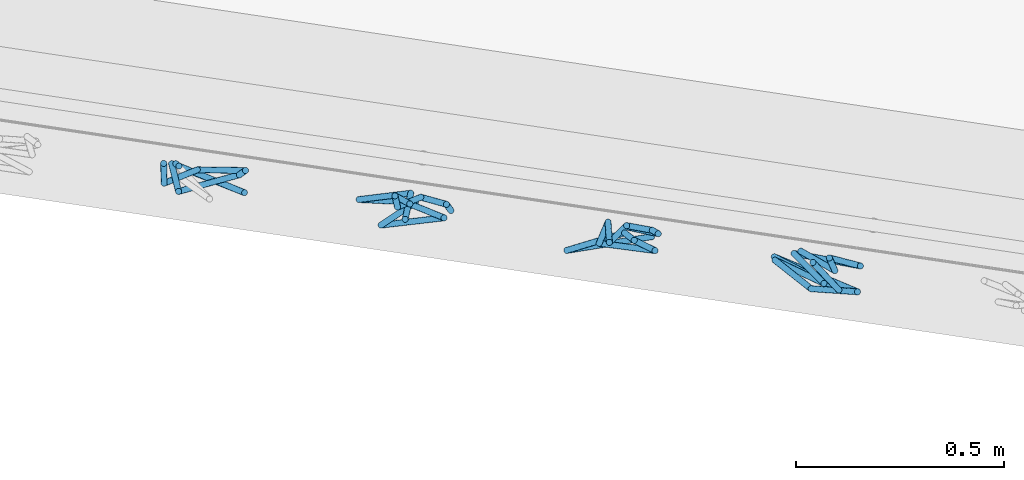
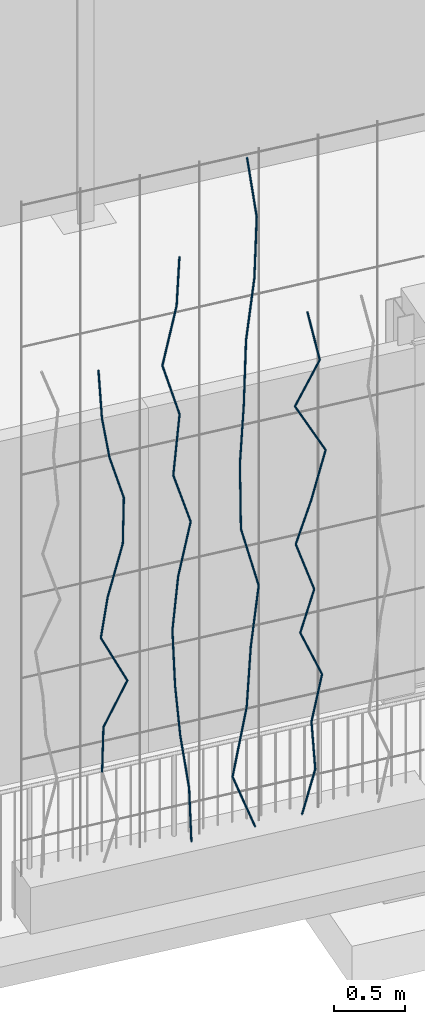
# One storey, part 110 of 142: 42 members, 1 element without a shape of its own.
"""IFC4 building model written with IfcOpenShell, lengths in metres."""

from ifc_helpers import new_model, si_unit, direction, frame, origin_with_axes, place, context, subcontext, project, spatial, circle, extrude, material, material_profile, profile_set, profile_usage, type_object, element, aggregate, save


model = new_model("IFC4")

# Units and contexts
model_context = context("Model", 3, precision=1e-05, world=origin_with_axes(), true_north=direction((0.0, 1.0)))
body_context = subcontext(model_context, "Body", "Model", "MODEL_VIEW")
ifc_project = project(units=[si_unit("AREAUNIT", "SQUARE_METRE"), si_unit("VOLUMEUNIT", "CUBIC_METRE"), si_unit("LENGTHUNIT", "METRE")], contexts=[model_context])

# Site, building, storey
site_placement = place(None, origin_with_axes())
site = spatial("IfcSite", under=ifc_project, at=site_placement, Name="Lares · Rua das Mercês · artigo 4771")
building_placement = place(site_placement, frame((15.0, 9.7, 14.65), z_axis=(0.0, 0.0, 1.0), x_axis=(0.989015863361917, -0.147809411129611, 0.0)))
building = spatial("IfcBuilding", under=site, at=building_placement, Name="Casa Sobreposta")
storey_placement = place(building_placement, origin_with_axes())
storey = spatial("IfcBuildingStorey", under=building, at=storey_placement, Name="00 · Habitação e estacionamento", Elevation=14.65)

# Assembly, members
assembly_placement = place(storey_placement, origin_with_axes())
assembly = element("IfcElementAssembly", 1, at=assembly_placement, inside=storey, Name="Fachada sul e pátio · estrutura e trepadeiras", ObjectType="LIVING_SHADE_TRELLIS", PredefinedType="USERDEFINED")
ifc_material = material(Name="Ramos de trepadeiras", Category="wood")
ifc_material_profile = material_profile(ifc_material, circle(Radius=0.0075))
ifc_profile_set = profile_set([ifc_material_profile], Name="D0.015")
ifc_profile_usage_1 = profile_usage(ifc_profile_set)
member_type = type_object("IfcMemberType", Name="D0.015 / vine_wood", PredefinedType="NOTDEFINED", material=ifc_profile_set)
member_1_placement = place(assembly_placement, frame((1.04551786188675, -1.65180114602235, 1.12023987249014), z_axis=(0.0216441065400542, -0.0116928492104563, 0.999697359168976), x_axis=(0.999765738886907, 0.000253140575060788, -0.0216426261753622)))
member_1 = element("IfcMember", 2, at=member_1_placement, type_object=member_type, material=ifc_profile_usage_1, Name="Trepadeiras · ramo", context=body_context, shape_type="SweptSolid", body=[
    extrude(circle(Radius=0.0075), origin_with_axes(), (0.0, 0.0, 1.0), 0.385236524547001),
])
ifc_profile_usage_2 = profile_usage(ifc_profile_set)
member_2_placement = place(assembly_placement, frame((1.05385596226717, -1.65630565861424, 1.50535980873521), z_axis=(0.393275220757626, -0.0947020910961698, 0.914530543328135), x_axis=(-0.234111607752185, -0.972209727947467, 0.0)))
member_2 = element("IfcMember", 3, at=member_2_placement, type_object=member_type, material=ifc_profile_usage_2, Name="Trepadeiras · ramo", context=body_context, shape_type="SweptSolid", body=[
    extrude(circle(Radius=0.0075), origin_with_axes(), (0.0, 0.0, 1.0), 0.421112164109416),
])
ifc_profile_usage_3 = profile_usage(ifc_profile_set)
member_3_placement = place(assembly_placement, frame((1.21946894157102, -1.69618586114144, 1.89047974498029), z_axis=(-0.42862490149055, 0.100433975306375, 0.89788290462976), x_axis=(0.228137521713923, 0.973628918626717, 0.0)))
member_3 = element("IfcMember", 4, at=member_3_placement, type_object=member_type, material=ifc_profile_usage_3, Name="Trepadeiras · ramo", context=body_context, shape_type="SweptSolid", body=[
    extrude(circle(Radius=0.0075), origin_with_axes(), (0.0, 0.0, 1.0), 0.428920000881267),
])
ifc_profile_usage_4 = profile_usage(ifc_profile_set)
member_4_placement = place(assembly_placement, frame((1.03562314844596, -1.65310772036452, 2.27559968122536), z_axis=(0.0671815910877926, -0.16244307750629, 0.984428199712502), x_axis=(-0.924089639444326, -0.382175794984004, 0.0)))
member_4 = element("IfcMember", 5, at=member_4_placement, type_object=member_type, material=ifc_profile_usage_4, Name="Trepadeiras · ramo", context=body_context, shape_type="SweptSolid", body=[
    extrude(circle(Radius=0.0075), origin_with_axes(), (0.0, 0.0, 1.0), 0.391211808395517),
])
ifc_profile_usage_5 = profile_usage(ifc_profile_set)
member_5_placement = place(assembly_placement, frame((1.0619053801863, -1.71665737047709, 2.66071961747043), z_axis=(0.335740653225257, 0.148049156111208, 0.930247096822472), x_axis=(0.403476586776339, -0.914989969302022, 0.0)))
member_5 = element("IfcMember", 6, at=member_5_placement, type_object=member_type, material=ifc_profile_usage_5, Name="Trepadeiras · ramo", context=body_context, shape_type="SweptSolid", body=[
    extrude(circle(Radius=0.0075), origin_with_axes(), (0.0, 0.0, 1.0), 0.413997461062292),
])
ifc_profile_usage_6 = profile_usage(ifc_profile_set)
member_6_placement = place(assembly_placement, frame((1.20090115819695, -1.65536539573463, 3.0458395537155), z_axis=(0.0333928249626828, 0.0321702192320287, 0.998924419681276), x_axis=(0.693800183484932, -0.720167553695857, 0.0)))
member_6 = element("IfcMember", 7, at=member_6_placement, type_object=member_type, material=ifc_profile_usage_6, Name="Trepadeiras · ramo", context=body_context, shape_type="SweptSolid", body=[
    extrude(circle(Radius=0.0075), origin_with_axes(), (0.0, 0.0, 1.0), 0.385534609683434),
])
ifc_profile_usage_7 = profile_usage(ifc_profile_set)
member_7_placement = place(assembly_placement, frame((1.21377524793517, -1.64296266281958, 3.43095948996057), z_axis=(-0.285637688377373, -0.0387161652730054, 0.957555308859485), x_axis=(-0.134314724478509, 0.990938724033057, 0.0)))
member_7 = element("IfcMember", 8, at=member_7_placement, type_object=member_type, material=ifc_profile_usage_7, Name="Trepadeiras · ramo", context=body_context, shape_type="SweptSolid", body=[
    extrude(circle(Radius=0.0075), origin_with_axes(), (0.0, 0.0, 1.0), 0.402190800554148),
])
ifc_profile_usage_8 = profile_usage(ifc_profile_set)
member_8_placement = place(assembly_placement, frame((1.09889439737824, -1.65853394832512, 3.81607942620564), z_axis=(-0.188349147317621, -0.110786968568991, 0.975833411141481), x_axis=(-0.506997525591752, 0.861947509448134, 0.0)))
member_8 = element("IfcMember", 9, at=member_8_placement, type_object=member_type, material=ifc_profile_usage_8, Name="Trepadeiras · ramo", context=body_context, shape_type="SweptSolid", body=[
    extrude(circle(Radius=0.0075), origin_with_axes(), (0.0, 0.0, 1.0), 0.394657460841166),
])
ifc_profile_usage_9 = profile_usage(ifc_profile_set)
member_9_placement = place(assembly_placement, frame((1.02456100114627, -1.70225685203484, 4.20119936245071), z_axis=(-0.020767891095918, 0.121017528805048, 0.992433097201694), x_axis=(0.985592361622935, 0.169138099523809, 0.0)))
member_9 = element("IfcMember", 10, at=member_9_placement, type_object=member_type, material=ifc_profile_usage_9, Name="Trepadeiras · ramo", context=body_context, shape_type="SweptSolid", body=[
    extrude(circle(Radius=0.0075), origin_with_axes(), (0.0, 0.0, 1.0), 0.388056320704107),
])
ifc_profile_usage_10 = profile_usage(ifc_profile_set)
member_10_placement = place(assembly_placement, frame((1.71733061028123, -1.66508877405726, 0.35), z_axis=(-0.0274245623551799, 0.0282673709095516, 0.999224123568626), x_axis=(0.999623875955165, 0.000775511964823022, 0.0274135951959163)))
member_10 = element("IfcMember", 11, at=member_10_placement, type_object=member_type, material=ifc_profile_usage_10, Name="Trepadeiras · ramo", context=body_context, shape_type="SweptSolid", body=[
    extrude(circle(Radius=0.0075), origin_with_axes(), (0.0, 0.0, 1.0), 0.463061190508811),
])
ifc_profile_usage_11 = profile_usage(ifc_profile_set)
member_11_placement = place(assembly_placement, frame((1.70463135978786, -1.65199925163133, 0.812701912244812), z_axis=(-0.136638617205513, 0.0166942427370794, 0.99048028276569), x_axis=(0.121276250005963, 0.992618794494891, 0.0)))
member_11 = element("IfcMember", 12, at=member_11_placement, type_object=member_type, material=ifc_profile_usage_11, Name="Trepadeiras · ramo", context=body_context, shape_type="SweptSolid", body=[
    extrude(circle(Radius=0.0075), origin_with_axes(), (0.0, 0.0, 1.0), 0.467149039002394),
])
ifc_profile_usage_12 = profile_usage(ifc_profile_set)
member_12_placement = place(assembly_placement, frame((1.64080076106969, -1.64420055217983, 1.27540382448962), z_axis=(-0.111142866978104, -0.0681510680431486, 0.991464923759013), x_axis=(-0.522736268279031, 0.852494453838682, 0.0)))
member_12 = element("IfcMember", 13, at=member_12_placement, type_object=member_type, material=ifc_profile_usage_12, Name="Trepadeiras · ramo", context=body_context, shape_type="SweptSolid", body=[
    extrude(circle(Radius=0.0075), origin_with_axes(), (0.0, 0.0, 1.0), 0.466685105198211),
])
ifc_profile_usage_13 = profile_usage(ifc_profile_set)
member_13_placement = place(assembly_placement, frame((1.58893204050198, -1.67600564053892, 1.73810573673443), z_axis=(-0.0213857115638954, 0.0558126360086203, 0.998212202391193), x_axis=(0.933797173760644, 0.357802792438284, 0.0)))
member_13 = element("IfcMember", 14, at=member_13_placement, type_object=member_type, material=ifc_profile_usage_13, Name="Trepadeiras · ramo", context=body_context, shape_type="SweptSolid", body=[
    extrude(circle(Radius=0.0075), origin_with_axes(), (0.0, 0.0, 1.0), 0.463530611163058),
])
ifc_profile_usage_14 = profile_usage(ifc_profile_set)
member_14_placement = place(assembly_placement, frame((1.57901910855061, -1.65013477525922, 2.20080764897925), z_axis=(0.0820466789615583, -0.0300995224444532, 0.996173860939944), x_axis=(-0.344413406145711, -0.938818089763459, 0.0)))
member_14 = element("IfcMember", 15, at=member_14_placement, type_object=member_type, material=ifc_profile_usage_14, Name="Trepadeiras · ramo", context=body_context, shape_type="SweptSolid", body=[
    extrude(circle(Radius=0.0075), origin_with_axes(), (0.0, 0.0, 1.0), 0.464479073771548),
])
ifc_profile_usage_15 = profile_usage(ifc_profile_set)
member_15_placement = place(assembly_placement, frame((1.61712807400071, -1.66411537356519, 2.66350956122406), z_axis=(0.183682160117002, -0.0443518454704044, 0.981984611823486), x_axis=(-0.234714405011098, -0.972064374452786, 0.0)))
member_15 = element("IfcMember", 16, at=member_15_placement, type_object=member_type, material=ifc_profile_usage_15, Name="Trepadeiras · ramo", context=body_context, shape_type="SweptSolid", body=[
    extrude(circle(Radius=0.0075), origin_with_axes(), (0.0, 0.0, 1.0), 0.471190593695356),
])
ifc_profile_usage_16 = profile_usage(ifc_profile_set)
member_16_placement = place(assembly_placement, frame((1.70367738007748, -1.68501354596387, 3.12621147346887), z_axis=(-0.302591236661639, -0.0817091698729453, 0.949611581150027), x_axis=(-0.26069420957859, 0.965421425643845, 0.0)))
member_16 = element("IfcMember", 17, at=member_16_placement, type_object=member_type, material=ifc_profile_usage_16, Name="Trepadeiras · ramo", context=body_context, shape_type="SweptSolid", body=[
    extrude(circle(Radius=0.0075), origin_with_axes(), (0.0, 0.0, 1.0), 0.48725386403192),
])
ifc_profile_usage_17 = profile_usage(ifc_profile_set)
member_17_placement = place(assembly_placement, frame((1.5562386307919, -1.72482665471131, 3.58891338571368), z_axis=(0.156237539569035, 0.141385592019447, 0.97754792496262), x_axis=(0.670985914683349, -0.741470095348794, 0.0)))
member_17 = element("IfcMember", 18, at=member_17_placement, type_object=member_type, material=ifc_profile_usage_17, Name="Trepadeiras · ramo", context=body_context, shape_type="SweptSolid", body=[
    extrude(circle(Radius=0.0075), origin_with_axes(), (0.0, 0.0, 1.0), 0.473329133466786),
])
ifc_profile_usage_18 = profile_usage(ifc_profile_set)
member_18_placement = place(assembly_placement, frame((1.6301904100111, -1.65790473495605, 4.05161529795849), z_axis=(-0.280938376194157, -0.0286551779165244, 0.959297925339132), x_axis=(-0.101471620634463, 0.994838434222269, -5.89284812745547e-18)))
member_18 = element("IfcMember", 19, at=member_18_placement, type_object=member_type, material=ifc_profile_usage_18, Name="Trepadeiras · ramo", context=body_context, shape_type="SweptSolid", body=[
    extrude(circle(Radius=0.0075), origin_with_axes(), (0.0, 0.0, 1.0), 0.482333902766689),
])
ifc_profile_usage_19 = profile_usage(ifc_profile_set)
member_19_placement = place(assembly_placement, frame((1.49468430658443, -1.671726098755, 4.5143172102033), z_axis=(0.252230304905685, 0.0696713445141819, 0.965155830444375), x_axis=(0.266250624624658, -0.963903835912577, 0.0)))
member_19 = element("IfcMember", 20, at=member_19_placement, type_object=member_type, material=ifc_profile_usage_19, Name="Trepadeiras · ramo", context=body_context, shape_type="SweptSolid", body=[
    extrude(circle(Radius=0.0075), origin_with_axes(), (0.0, 0.0, 1.0), 0.479406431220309),
])
ifc_profile_usage_20 = profile_usage(ifc_profile_set)
member_20_placement = place(assembly_placement, frame((1.61560513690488, -1.63832520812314, 4.97701912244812), z_axis=(-0.00860203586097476, -0.137344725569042, 0.990485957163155), x_axis=(-0.998044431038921, 0.0625085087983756, 0.0)))
member_20 = element("IfcMember", 21, at=member_20_placement, type_object=member_type, material=ifc_profile_usage_20, Name="Trepadeiras · ramo", context=body_context, shape_type="SweptSolid", body=[
    extrude(circle(Radius=0.0075), origin_with_axes(), (0.0, 0.0, 1.0), 0.467146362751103),
])
ifc_profile_usage_21 = profile_usage(ifc_profile_set)
member_21_placement = place(assembly_placement, frame((2.20504544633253, -1.65602444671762, 0.35), z_axis=(-0.350256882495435, -0.111665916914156, 0.929973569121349), x_axis=(-0.303748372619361, 0.952752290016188, 0.0)))
member_21 = element("IfcMember", 22, at=member_21_placement, type_object=member_type, material=ifc_profile_usage_21, Name="Trepadeiras · ramo", context=body_context, shape_type="SweptSolid", body=[
    extrude(circle(Radius=0.0075), origin_with_axes(), (0.0, 0.0, 1.0), 0.563663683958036),
])
ifc_profile_usage_22 = profile_usage(ifc_profile_set)
member_22_placement = place(assembly_placement, frame((2.0076183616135, -1.718966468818, 0.874192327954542), z_axis=(0.241728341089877, 0.114522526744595, 0.963562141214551), x_axis=(0.428146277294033, -0.903709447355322, 0.0)))
member_22 = element("IfcMember", 23, at=member_22_placement, type_object=member_type, material=ifc_profile_usage_22, Name="Trepadeiras · ramo", context=body_context, shape_type="SweptSolid", body=[
    extrude(circle(Radius=0.0075), origin_with_axes(), (0.0, 0.0, 1.0), 0.544015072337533),
])
ifc_profile_usage_23 = profile_usage(ifc_profile_set)
member_23_placement = place(assembly_placement, frame((2.13912222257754, -1.65666448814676, 1.39838465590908), z_axis=(0.0486686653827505, -0.0273178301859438, 0.998441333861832), x_axis=(-0.489467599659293, -0.872021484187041, 0.0)))
member_23 = element("IfcMember", 24, at=member_23_placement, type_object=member_type, material=ifc_profile_usage_23, Name="Trepadeiras · ramo", context=body_context, shape_type="SweptSolid", body=[
    extrude(circle(Radius=0.0075), origin_with_axes(), (0.0, 0.0, 1.0), 0.525010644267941),
])
ifc_profile_usage_24 = profile_usage(ifc_profile_set)
member_24_placement = place(assembly_placement, frame((2.1646737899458, -1.67100663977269, 1.92257698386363), z_axis=(0.101136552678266, -0.0322293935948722, 0.99435037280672), x_axis=(-0.30362778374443, -0.952790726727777, 0.0)))
member_24 = element("IfcMember", 25, at=member_24_placement, type_object=member_type, material=ifc_profile_usage_24, Name="Trepadeiras · ramo", context=body_context, shape_type="SweptSolid", body=[
    extrude(circle(Radius=0.0075), origin_with_axes(), (0.0, 0.0, 1.0), 0.527170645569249),
])
ifc_profile_usage_25 = profile_usage(ifc_profile_set)
member_25_placement = place(assembly_placement, frame((2.21799001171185, -1.6879970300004, 2.44676931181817), z_axis=(-0.250762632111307, -0.00458018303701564, 0.968037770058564), x_axis=(-0.0182619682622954, 0.999833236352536, -8.36945774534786e-19)))
member_25 = element("IfcMember", 26, at=member_25_placement, type_object=member_type, material=ifc_profile_usage_25, Name="Trepadeiras · ramo", context=body_context, shape_type="SweptSolid", body=[
    extrude(circle(Radius=0.0075), origin_with_axes(), (0.0, 0.0, 1.0), 0.541499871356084),
])
ifc_profile_usage_26 = profile_usage(ifc_profile_set)
member_26_placement = place(assembly_placement, frame((2.08220207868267, -1.69047719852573, 2.97096163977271), z_axis=(0.025812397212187, 0.101382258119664, 0.994512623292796), x_axis=(0.969083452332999, -0.246733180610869, 0.0)))
member_26 = element("IfcMember", 27, at=member_26_placement, type_object=member_type, material=ifc_profile_usage_26, Name="Trepadeiras · ramo", context=body_context, shape_type="SweptSolid", body=[
    extrude(circle(Radius=0.0075), origin_with_axes(), (0.0, 0.0, 1.0), 0.527084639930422),
])
ifc_profile_usage_27 = profile_usage(ifc_profile_set)
member_27_placement = place(assembly_placement, frame((2.09580739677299, -1.6370401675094, 3.49515396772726), z_axis=(0.0194798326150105, -0.0905860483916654, 0.995698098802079), x_axis=(-0.977650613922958, -0.210236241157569, 0.0)))
member_27 = element("IfcMember", 28, at=member_27_placement, type_object=member_type, material=ifc_profile_usage_27, Name="Trepadeiras · ramo", context=body_context, shape_type="SweptSolid", body=[
    extrude(circle(Radius=0.0075), origin_with_axes(), (0.0, 0.0, 1.0), 0.526457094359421),
])
ifc_profile_usage_28 = profile_usage(ifc_profile_set)
member_28_placement = place(assembly_placement, frame((2.1060626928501, -1.68472983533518, 4.0193462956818), z_axis=(0.0669423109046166, 0.0872603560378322, 0.993933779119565), x_axis=(0.793418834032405, -0.608676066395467, 0.0)))
member_28 = element("IfcMember", 29, at=member_28_placement, type_object=member_type, material=ifc_profile_usage_28, Name="Trepadeiras · ramo", context=body_context, shape_type="SweptSolid", body=[
    extrude(circle(Radius=0.0075), origin_with_axes(), (0.0, 0.0, 1.0), 0.527391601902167),
])
ifc_profile_usage_29 = profile_usage(ifc_profile_set)
member_29_placement = place(assembly_placement, frame((2.14136750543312, -1.63870945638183, 4.54353862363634), z_axis=(0.118893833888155, -0.00365784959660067, 0.992900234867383), x_axis=(-0.0307511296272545, -0.999527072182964, 0.0)))
member_29 = element("IfcMember", 30, at=member_29_placement, type_object=member_type, material=ifc_profile_usage_29, Name="Trepadeiras · ramo", context=body_context, shape_type="SweptSolid", body=[
    extrude(circle(Radius=0.0075), origin_with_axes(), (0.0, 0.0, 1.0), 0.527940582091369),
])
ifc_profile_usage_30 = profile_usage(ifc_profile_set)
member_30_placement = place(assembly_placement, frame((2.2041363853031, -1.64064058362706, 5.06773095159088), z_axis=(0.0291414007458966, -0.0113355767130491, 0.999511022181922), x_axis=(0.999575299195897, 0.000330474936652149, -0.0291395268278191)))
member_30 = element("IfcMember", 31, at=member_30_placement, type_object=member_type, material=ifc_profile_usage_30, Name="Trepadeiras · ramo", context=body_context, shape_type="SweptSolid", body=[
    extrude(circle(Radius=0.0075), origin_with_axes(), (0.0, 0.0, 1.0), 0.524448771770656),
])
ifc_profile_usage_31 = profile_usage(ifc_profile_set)
member_31_placement = place(assembly_placement, frame((2.21941955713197, -1.64658551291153, 5.59192327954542), z_axis=(-0.13503851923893, 0.00826567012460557, 0.99080587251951), x_axis=(0.0610953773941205, 0.998131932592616, 0.0)))
member_31 = element("IfcMember", 32, at=member_31_placement, type_object=member_type, material=ifc_profile_usage_31, Name="Trepadeiras · ramo", context=body_context, shape_type="SweptSolid", body=[
    extrude(circle(Radius=0.0075), origin_with_axes(), (0.0, 0.0, 1.0), 0.529056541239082),
])
ifc_profile_usage_32 = profile_usage(ifc_profile_set)
member_32_placement = place(assembly_placement, frame((2.5650621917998, -1.63745860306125, 0.35), z_axis=(0.217584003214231, -0.0844428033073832, 0.972381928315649), x_axis=(-0.361801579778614, -0.932255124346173, 0.0)))
member_32 = element("IfcMember", 33, at=member_32_placement, type_object=member_type, material=ifc_profile_usage_32, Name="Trepadeiras · ramo", context=body_context, shape_type="SweptSolid", body=[
    extrude(circle(Radius=0.0075), origin_with_axes(), (0.0, 0.0, 1.0), 0.405295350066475),
])
ifc_profile_usage_33 = profile_usage(ifc_profile_set)
member_33_placement = place(assembly_placement, frame((2.65324797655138, -1.67168287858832, 0.744101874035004), z_axis=(-0.0446122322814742, 0.071783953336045, 0.99642200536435), x_axis=(0.849339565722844, 0.527846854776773, 0.0)))
member_33 = element("IfcMember", 34, at=member_33_placement, type_object=member_type, material=ifc_profile_usage_33, Name="Trepadeiras · ramo", context=body_context, shape_type="SweptSolid", body=[
    extrude(circle(Radius=0.0075), origin_with_axes(), (0.0, 0.0, 1.0), 0.395517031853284),
])
ifc_profile_usage_34 = profile_usage(ifc_profile_set)
member_34_placement = place(assembly_placement, frame((2.63560307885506, -1.64329110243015, 1.13820374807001), z_axis=(0.191217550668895, -0.0202648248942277, 0.981338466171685), x_axis=(-0.105387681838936, -0.99443121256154, 0.0)))
member_34 = element("IfcMember", 35, at=member_34_placement, type_object=member_type, material=ifc_profile_usage_34, Name="Trepadeiras · ramo", context=body_context, shape_type="SweptSolid", body=[
    extrude(circle(Radius=0.0075), origin_with_axes(), (0.0, 0.0, 1.0), 0.401596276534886),
])
ifc_profile_usage_35 = profile_usage(ifc_profile_set)
member_35_placement = place(assembly_placement, frame((2.71239533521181, -1.6514293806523, 1.53230562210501), z_axis=(-0.381397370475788, 0.0145458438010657, 0.924296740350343), x_axis=(0.0381105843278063, 0.999273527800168, 0.0)))
member_35 = element("IfcMember", 36, at=member_35_placement, type_object=member_type, material=ifc_profile_usage_35, Name="Trepadeiras · ramo", context=body_context, shape_type="SweptSolid", body=[
    extrude(circle(Radius=0.0075), origin_with_axes(), (0.0, 0.0, 1.0), 0.426380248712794),
])
ifc_profile_usage_36 = profile_usage(ifc_profile_set)
member_36_placement = place(assembly_placement, frame((2.54977502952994, -1.64522732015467, 1.92640749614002), z_axis=(0.201463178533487, -0.149567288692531, 0.968009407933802), x_axis=(-0.596090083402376, -0.802917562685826, 0.0)))
member_36 = element("IfcMember", 37, at=member_36_placement, type_object=member_type, material=ifc_profile_usage_36, Name="Trepadeiras · ramo", context=body_context, shape_type="SweptSolid", body=[
    extrude(circle(Radius=0.0075), origin_with_axes(), (0.0, 0.0, 1.0), 0.407126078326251),
])
ifc_profile_usage_37 = profile_usage(ifc_profile_set)
member_37_placement = place(assembly_placement, frame((2.63179594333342, -1.70612006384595, 2.32050937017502), z_axis=(-0.301300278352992, 0.0916413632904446, 0.949115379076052), x_axis=(0.290990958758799, 0.956725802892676, 0.0)))
member_37 = element("IfcMember", 38, at=member_37_placement, type_object=member_type, material=ifc_profile_usage_37, Name="Trepadeiras · ramo", context=body_context, shape_type="SweptSolid", body=[
    extrude(circle(Radius=0.0075), origin_with_axes(), (0.0, 0.0, 1.0), 0.415230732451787),
])
ifc_profile_usage_38 = profile_usage(ifc_profile_set)
member_38_placement = place(assembly_placement, frame((2.50668680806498, -1.66806775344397, 2.71461124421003), z_axis=(0.235443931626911, -0.134776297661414, 0.962497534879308), x_axis=(-0.496797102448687, -0.86786671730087, 0.0)))
member_38 = element("IfcMember", 39, at=member_38_placement, type_object=member_type, material=ifc_profile_usage_38, Name="Trepadeiras · ramo", context=body_context, shape_type="SweptSolid", body=[
    extrude(circle(Radius=0.0075), origin_with_axes(), (0.0, 0.0, 1.0), 0.40945754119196),
])
ifc_profile_usage_39 = profile_usage(ifc_profile_set)
member_39_placement = place(assembly_placement, frame((2.6030911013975, -1.72325292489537, 3.10871311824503), z_axis=(0.272680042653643, 0.0225825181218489, 0.961839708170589), x_axis=(0.0825343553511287, -0.996588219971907, 0.0)))
member_39 = element("IfcMember", 40, at=member_39_placement, type_object=member_type, material=ifc_profile_usage_39, Name="Trepadeiras · ramo", context=body_context, shape_type="SweptSolid", body=[
    extrude(circle(Radius=0.0075), origin_with_axes(), (0.0, 0.0, 1.0), 0.409737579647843),
])
ifc_profile_usage_40 = profile_usage(ifc_profile_set)
member_40_placement = place(assembly_placement, frame((2.71481836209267, -1.71400001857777, 3.50281499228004), z_axis=(-0.468904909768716, 0.119291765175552, 0.875155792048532), x_axis=(0.246551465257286, 0.969129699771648, 0.0)))
member_40 = element("IfcMember", 41, at=member_40_placement, type_object=member_type, material=ifc_profile_usage_40, Name="Trepadeiras · ramo", context=body_context, shape_type="SweptSolid", body=[
    extrude(circle(Radius=0.0075), origin_with_axes(), (0.0, 0.0, 1.0), 0.45032196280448),
])
ifc_profile_usage_41 = profile_usage(ifc_profile_set)
member_41_placement = place(assembly_placement, frame((2.50366018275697, -1.66028031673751, 3.89691686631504), z_axis=(0.38480684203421, -0.130123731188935, 0.913778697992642), x_axis=(-0.320334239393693, -0.947304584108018, 0.0)))
member_41 = element("IfcMember", 42, at=member_41_placement, type_object=member_type, material=ifc_profile_usage_41, Name="Trepadeiras · ramo", context=body_context, shape_type="SweptSolid", body=[
    extrude(circle(Radius=0.0075), origin_with_axes(), (0.0, 0.0, 1.0), 0.431288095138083),
])
ifc_profile_usage_42 = profile_usage(ifc_profile_set)
member_42_placement = place(assembly_placement, frame((2.669622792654, -1.71640113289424, 4.29101874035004), z_axis=(-0.176688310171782, 0.139007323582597, 0.974401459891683), x_axis=(0.61831865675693, 0.785927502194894, 0.0)))
member_42 = element("IfcMember", 43, at=member_42_placement, type_object=member_type, material=ifc_profile_usage_42, Name="Trepadeiras · ramo", context=body_context, shape_type="SweptSolid", body=[
    extrude(circle(Radius=0.0075), origin_with_axes(), (0.0, 0.0, 1.0), 0.404455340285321),
])
aggregate(assembly, [member_1, member_2, member_3, member_4, member_5, member_6, member_7, member_8, member_9, member_10, member_11, member_12, member_13, member_14, member_15, member_16, member_17, member_18, member_19, member_20, member_21, member_22, member_23, member_24, member_25, member_26, member_27, member_28, member_29, member_30, member_31, member_32, member_33, member_34, member_35, member_36, member_37, member_38, member_39, member_40, member_41, member_42])

save(model, "model.ifc")
